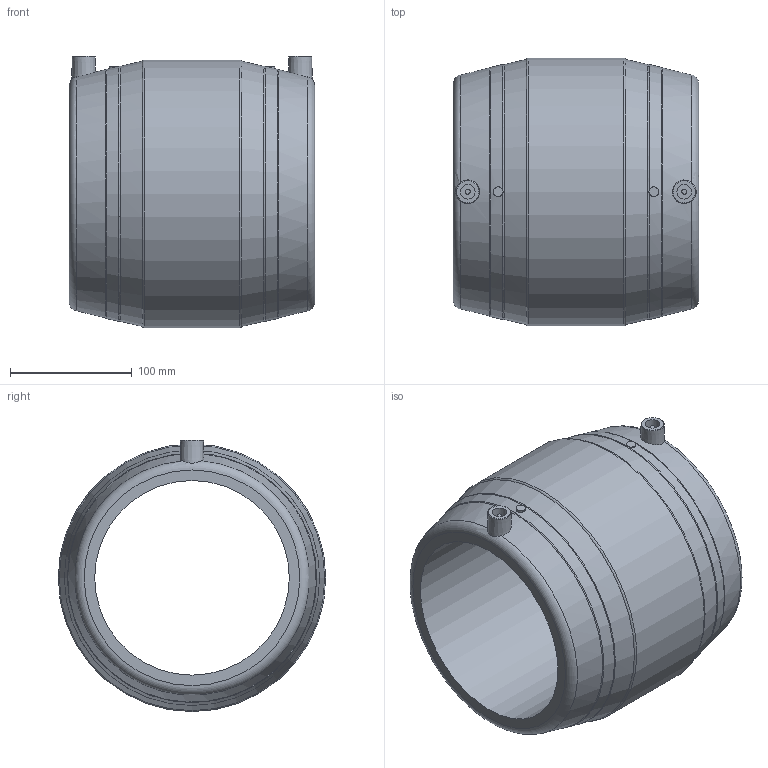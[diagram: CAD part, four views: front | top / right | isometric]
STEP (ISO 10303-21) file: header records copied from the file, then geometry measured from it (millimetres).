
FILE_DESCRIPTION(/* description */ ('Unknown'),/* implementation_level */ '2;1');
FILE_NAME(/* name */ 'MP160H',/* time_stamp */ '2021-05-27T08:36:29+02:00',/* author */ ('Unknown'),/* organization */ ('Unknown'),/* preprocessor_version */ 'ST-DEVELOPER v16.7',/* originating_system */ 'Solid Edge',/* authorisation */ 'Unknown');
FILE_SCHEMA (('AUTOMOTIVE_DESIGN {1 0 10303 214 3 1 1}'));
Length unit declared in the file: millimetre
Products named in the file (1): MP160H
Bounding box: 202 x 220 x 223 mm (x, y, z)
Volume: 2986705.9 mm3; surface area: 255319.3 mm2
Topology: 1 solids, 1 shells, 36 faces, 83 edges, 53 vertices
Faces by surface type: torus 10, plane 10, cone 8, cylinder 8
Full cylindrical faces by diameter (mm): 4 x2, 8 x2, 12 x2, 160 x1, 220 x1
Entity records: 824 total; most frequent: CARTESIAN_POINT 179, DIRECTION 138, ORIENTED_EDGE 80, AXIS2_PLACEMENT_3D 69, EDGE_LOOP 68, FACE_BOUND 68, EDGE_CURVE 40, VERTEX_POINT 36
